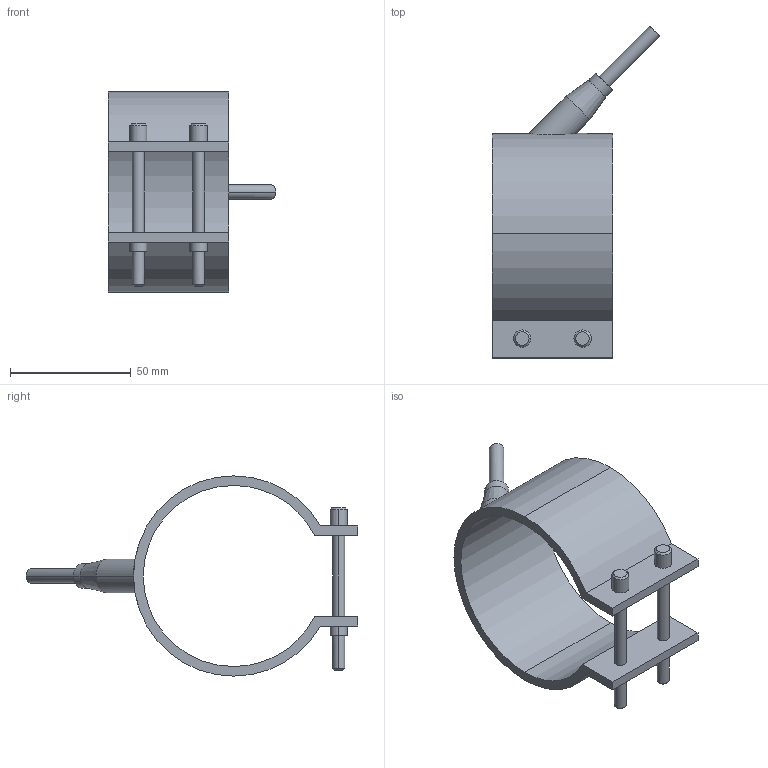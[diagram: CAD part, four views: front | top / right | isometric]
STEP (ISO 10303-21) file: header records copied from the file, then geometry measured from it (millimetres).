
FILE_DESCRIPTION(('CATIA V5 STEP Exchange'),'2;1');
FILE_NAME('C:\Users\Utente\Desktop\IO LAVORO\3D X SITO CF\X SITO\PLASTICA\RF1\29075050.stp','2021-03-29T18:13:55+00:00',('none'),('none'),'CATIA Version 5 Release 20 GA (IN-10)','CATIA V5 STEP AP203','none');
FILE_SCHEMA(('CONFIG_CONTROL_DESIGN'));
Length unit declared in the file: millimetre
Products named in the file (1): 29075050
Bounding box: 69.55 x 137.55 x 83 mm (x, y, z)
Volume: 56083.4 mm3; surface area: 30163.9 mm2
Topology: 1 solids, 1 shells, 54 faces, 125 edges, 81 vertices
Faces by surface type: cylinder 28, plane 16, cone 10
Entity records: 1732 total; most frequent: CARTESIAN_POINT 486, ORIENTED_EDGE 250, DIRECTION 215, EDGE_CURVE 125, AXIS2_PLACEMENT_3D 108, VERTEX_POINT 81, EDGE_LOOP 66, VECTOR 56
